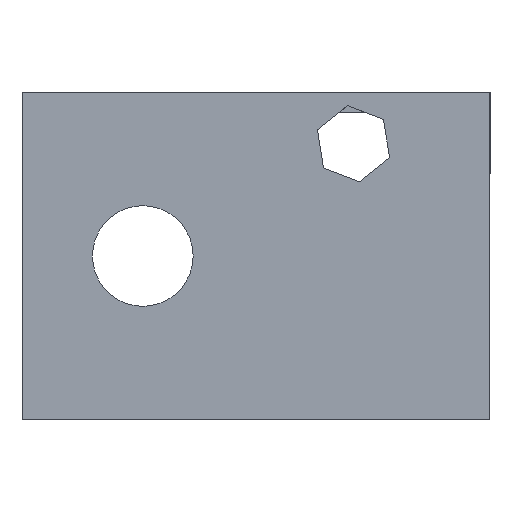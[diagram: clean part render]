
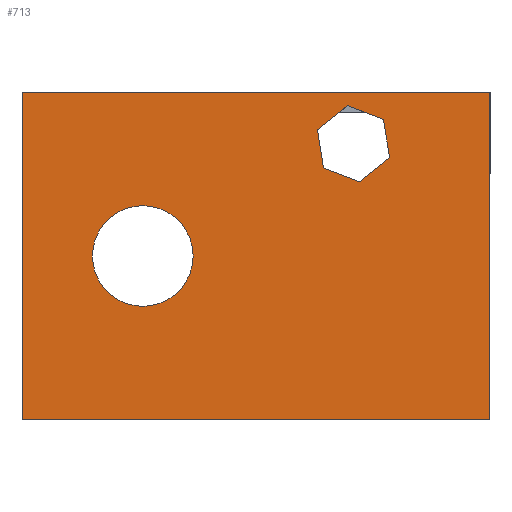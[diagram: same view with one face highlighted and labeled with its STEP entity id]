
A CAD part, left-side view. The second image highlights one B-rep face of the part: STEP entity #713.
In plain terms, the highlighted planar face has unit normal (-1, 0, 0).
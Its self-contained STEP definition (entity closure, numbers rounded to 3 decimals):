
#6 = CARTESIAN_POINT ( 'NONE',  ( -2., -16.285, 9.068 ) ) ;
#7 = CARTESIAN_POINT ( 'NONE',  ( -2., -18.374, 10.035 ) ) ;
#8 = ORIENTED_EDGE ( 'NONE', *, *, #1261, .F. ) ;
#28 = EDGE_CURVE ( 'NONE', #657, #258, #1076, .T. ) ;
#39 = CARTESIAN_POINT ( 'NONE',  ( -2., -17.775, 13.825 ) ) ;
#46 = ORIENTED_EDGE ( 'NONE', *, *, #737, .F. ) ;
#59 = DIRECTION ( 'NONE',  ( 0., 0., -1. ) ) ;
#73 = VECTOR ( 'NONE', #216, 1000. ) ;
#78 = VERTEX_POINT ( 'NONE', #718 ) ;
#79 = LINE ( 'NONE', #997, #1285 ) ;
#89 = DIRECTION ( 'NONE',  ( 0., 0.156, 0.988 ) ) ;
#93 = LINE ( 'NONE', #405, #942 ) ;
#96 = CARTESIAN_POINT ( 'NONE',  ( -2., -17.775, 13.825 ) ) ;
#100 = VECTOR ( 'NONE', #202, 1000. ) ;
#103 = CARTESIAN_POINT ( 'NONE',  ( -2., -14.192, 15.202 ) ) ;
#104 = VECTOR ( 'NONE', #909, 1000. ) ;
#113 = DIRECTION ( 'NONE',  ( -1., 0., 0. ) ) ;
#134 = EDGE_CURVE ( 'NONE', #78, #789, #330, .T. ) ;
#150 = FACE_BOUND ( 'NONE', #835, .T. ) ;
#151 = EDGE_CURVE ( 'NONE', #301, #187, #820, .T. ) ;
#158 = VERTEX_POINT ( 'NONE', #7 ) ;
#187 = VERTEX_POINT ( 'NONE', #316 ) ;
#189 = DIRECTION ( 'NONE',  ( 0., -0.156, -0.988 ) ) ;
#198 = AXIS2_PLACEMENT_3D ( 'NONE', #560, #976, #59 ) ;
#200 = DIRECTION ( 'NONE',  ( 0., 0.156, 0.988 ) ) ;
#202 = DIRECTION ( 'NONE',  ( 0., 0.777, -0.629 ) ) ;
#203 = CARTESIAN_POINT ( 'NONE',  ( -2., -28.358, 14.502 ) ) ;
#212 = VERTEX_POINT ( 'NONE', #1238 ) ;
#216 = DIRECTION ( 'NONE',  ( 0., 0., 1. ) ) ;
#217 = CARTESIAN_POINT ( 'NONE',  ( -2., 6.142, 0.252 ) ) ;
#227 = ORIENTED_EDGE ( 'NONE', *, *, #355, .F. ) ;
#229 = CARTESIAN_POINT ( 'NONE',  ( -2., -18.185, 11.232 ) ) ;
#246 = CARTESIAN_POINT ( 'NONE',  ( -2., -15.391, 7.62 ) ) ;
#258 = VERTEX_POINT ( 'NONE', #535 ) ;
#266 = ORIENTED_EDGE ( 'NONE', *, *, #1208, .F. ) ;
#285 = EDGE_LOOP ( 'NONE', ( #8, #388, #46, #611 ) ) ;
#289 = LINE ( 'NONE', #322, #922 ) ;
#297 = VECTOR ( 'NONE', #933, 1000. ) ;
#301 = VERTEX_POINT ( 'NONE', #39 ) ;
#316 = CARTESIAN_POINT ( 'NONE',  ( -2., -14.192, 15.202 ) ) ;
#322 = CARTESIAN_POINT ( 'NONE',  ( -2., -18.374, 10.035 ) ) ;
#330 = LINE ( 'NONE', #203, #297 ) ;
#339 = LINE ( 'NONE', #1131, #73 ) ;
#355 = EDGE_CURVE ( 'NONE', #1033, #716, #364, .T. ) ;
#364 = LINE ( 'NONE', #1068, #876 ) ;
#366 = CARTESIAN_POINT ( 'NONE',  ( -2., -18.374, 10.035 ) ) ;
#388 = ORIENTED_EDGE ( 'NONE', *, *, #660, .F. ) ;
#404 = CARTESIAN_POINT ( 'NONE',  ( -2., -11.209, 12.787 ) ) ;
#405 = CARTESIAN_POINT ( 'NONE',  ( -2., 16.142, 16.502 ) ) ;
#423 = DIRECTION ( 'NONE',  ( 0., 0., 1. ) ) ;
#458 = VECTOR ( 'NONE', #774, 1000. ) ;
#474 = LINE ( 'NONE', #785, #458 ) ;
#487 = VERTEX_POINT ( 'NONE', #1016 ) ;
#498 = EDGE_CURVE ( 'NONE', #158, #616, #289, .T. ) ;
#500 = DIRECTION ( 'NONE',  ( 0., 0.321, 0.947 ) ) ;
#515 = ORIENTED_EDGE ( 'NONE', *, *, #1175, .F. ) ;
#516 = LINE ( 'NONE', #6, #1204 ) ;
#519 = EDGE_CURVE ( 'NONE', #258, #657, #1041, .T. ) ;
#535 = CARTESIAN_POINT ( 'NONE',  ( -2., 6.142, 5.252 ) ) ;
#560 = CARTESIAN_POINT ( 'NONE',  ( -2., 0., 0. ) ) ;
#564 = FACE_BOUND ( 'NONE', #830, .T. ) ;
#579 = LINE ( 'NONE', #404, #996 ) ;
#591 = LINE ( 'NONE', #994, #1245 ) ;
#593 = DIRECTION ( 'NONE',  ( -1., 0., 0. ) ) ;
#611 = ORIENTED_EDGE ( 'NONE', *, *, #134, .F. ) ;
#616 = VERTEX_POINT ( 'NONE', #229 ) ;
#625 = ORIENTED_EDGE ( 'NONE', *, *, #857, .F. ) ;
#641 = VECTOR ( 'NONE', #89, 1000. ) ;
#657 = VERTEX_POINT ( 'NONE', #943 ) ;
#660 = EDGE_CURVE ( 'NONE', #914, #487, #339, .T. ) ;
#685 = DIRECTION ( 'NONE',  ( 0., -0.933, -0.359 ) ) ;
#689 = DIRECTION ( 'NONE',  ( 0., 0., 1. ) ) ;
#690 = CARTESIAN_POINT ( 'NONE',  ( -2., -28.358, -15.998 ) ) ;
#696 = ORIENTED_EDGE ( 'NONE', *, *, #825, .F. ) ;
#711 = DIRECTION ( 'NONE',  ( 0., -0.777, 0.629 ) ) ;
#713 = ADVANCED_FACE ( 'NONE', ( #150, #564, #965 ), #862, .F. ) ;
#716 = VERTEX_POINT ( 'NONE', #246 ) ;
#718 = CARTESIAN_POINT ( 'NONE',  ( -2., -28.358, 16.502 ) ) ;
#725 = ORIENTED_EDGE ( 'NONE', *, *, #151, .F. ) ;
#728 = ORIENTED_EDGE ( 'NONE', *, *, #1075, .F. ) ;
#730 = DIRECTION ( 'NONE',  ( 0., -1., 0. ) ) ;
#737 = EDGE_CURVE ( 'NONE', #789, #914, #474, .T. ) ;
#743 = ORIENTED_EDGE ( 'NONE', *, *, #28, .F. ) ;
#762 = CARTESIAN_POINT ( 'NONE',  ( -2., -11.808, 8.997 ) ) ;
#774 = DIRECTION ( 'NONE',  ( 0., 1., 0. ) ) ;
#785 = CARTESIAN_POINT ( 'NONE',  ( -2., 16.142, -15.998 ) ) ;
#787 = VERTEX_POINT ( 'NONE', #899 ) ;
#789 = VERTEX_POINT ( 'NONE', #690 ) ;
#820 = LINE ( 'NONE', #96, #104 ) ;
#825 = EDGE_CURVE ( 'NONE', #716, #158, #79, .T. ) ;
#830 = EDGE_LOOP ( 'NONE', ( #725, #728, #1025, #266, #1065, #696, #227, #625, #515 ) ) ;
#831 = CARTESIAN_POINT ( 'NONE',  ( -2., -18.179, 11.266 ) ) ;
#835 = EDGE_LOOP ( 'NONE', ( #1028, #743 ) ) ;
#857 = EDGE_CURVE ( 'NONE', #787, #1033, #579, .T. ) ;
#862 = PLANE ( 'NONE',  #198 ) ;
#876 = VECTOR ( 'NONE', #685, 1000. ) ;
#899 = CARTESIAN_POINT ( 'NONE',  ( -2., -11.209, 12.787 ) ) ;
#909 = DIRECTION ( 'NONE',  ( 0., 0.933, 0.359 ) ) ;
#914 = VERTEX_POINT ( 'NONE', #1083 ) ;
#921 = AXIS2_PLACEMENT_3D ( 'NONE', #1271, #593, #689 ) ;
#922 = VECTOR ( 'NONE', #200, 1000. ) ;
#933 = DIRECTION ( 'NONE',  ( 0., 0., -1. ) ) ;
#942 = VECTOR ( 'NONE', #730, 1000. ) ;
#943 = CARTESIAN_POINT ( 'NONE',  ( -2., 6.142, -4.748 ) ) ;
#963 = VERTEX_POINT ( 'NONE', #831 ) ;
#965 = FACE_OUTER_BOUND ( 'NONE', #285, .T. ) ;
#976 = DIRECTION ( 'NONE',  ( 1., 0., 0. ) ) ;
#983 = AXIS2_PLACEMENT_3D ( 'NONE', #217, #113, #423 ) ;
#994 = CARTESIAN_POINT ( 'NONE',  ( -2., -18.189, 11.237 ) ) ;
#996 = VECTOR ( 'NONE', #189, 1000. ) ;
#997 = CARTESIAN_POINT ( 'NONE',  ( -2., -15.391, 7.62 ) ) ;
#1016 = CARTESIAN_POINT ( 'NONE',  ( -2., 18.142, 16.502 ) ) ;
#1025 = ORIENTED_EDGE ( 'NONE', *, *, #1079, .F. ) ;
#1028 = ORIENTED_EDGE ( 'NONE', *, *, #519, .F. ) ;
#1033 = VERTEX_POINT ( 'NONE', #762 ) ;
#1041 = CIRCLE ( 'NONE', #983, 5. ) ;
#1065 = ORIENTED_EDGE ( 'NONE', *, *, #498, .F. ) ;
#1068 = CARTESIAN_POINT ( 'NONE',  ( -2., -11.808, 8.997 ) ) ;
#1075 = EDGE_CURVE ( 'NONE', #963, #301, #1269, .T. ) ;
#1076 = CIRCLE ( 'NONE', #921, 5. ) ;
#1079 = EDGE_CURVE ( 'NONE', #212, #963, #591, .T. ) ;
#1083 = CARTESIAN_POINT ( 'NONE',  ( -2., 18.142, -15.998 ) ) ;
#1115 = LINE ( 'NONE', #103, #100 ) ;
#1123 = DIRECTION ( 'NONE',  ( 0., -0.66, 0.751 ) ) ;
#1131 = CARTESIAN_POINT ( 'NONE',  ( -2., 18.142, 14.502 ) ) ;
#1175 = EDGE_CURVE ( 'NONE', #187, #787, #1115, .T. ) ;
#1204 = VECTOR ( 'NONE', #1123, 1000. ) ;
#1208 = EDGE_CURVE ( 'NONE', #616, #212, #516, .T. ) ;
#1238 = CARTESIAN_POINT ( 'NONE',  ( -2., -18.189, 11.237 ) ) ;
#1245 = VECTOR ( 'NONE', #500, 1000. ) ;
#1261 = EDGE_CURVE ( 'NONE', #487, #78, #93, .T. ) ;
#1269 = LINE ( 'NONE', #366, #641 ) ;
#1271 = CARTESIAN_POINT ( 'NONE',  ( -2., 6.142, 0.252 ) ) ;
#1285 = VECTOR ( 'NONE', #711, 1000. ) ;
